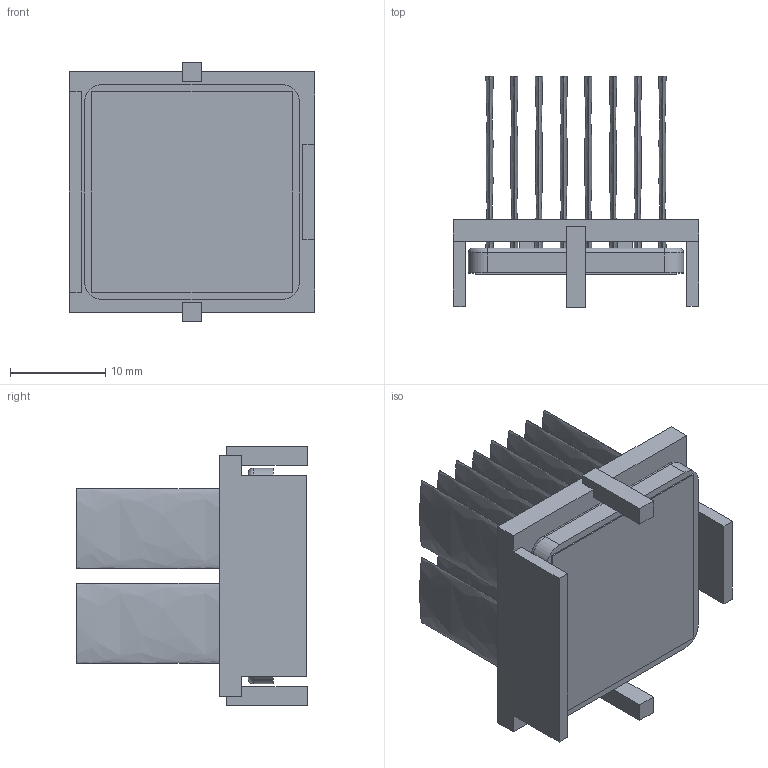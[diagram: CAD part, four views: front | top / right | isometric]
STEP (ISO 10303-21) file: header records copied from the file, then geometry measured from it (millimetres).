
FILE_DESCRIPTION (( 'STEP AP214' ), '1' );
FILE_NAME ('INM23001-21W_2.6+Y.STEP', '2023-02-15T19:18:29', ( '' ), ( '' ), 'SwSTEP 2.0', 'SolidWorks 2020', '' );
FILE_SCHEMA (( 'AUTOMOTIVE_DESIGN' ));
Length unit declared in the file: inch
Products named in the file (1): INM23001-21W_2.6+Y
Bounding box: 25.7 x 24.2 x 27.2 mm (x, y, z)
Volume: 3857.6 mm3; surface area: 8727.2 mm2
Topology: 3 solids, 3 shells, 126 faces, 304 edges, 200 vertices
Faces by surface type: plane 82, bspline 32, cylinder 8, torus 4
Entity records: 5404 total; most frequent: CARTESIAN_POINT 1047, ORIENTED_EDGE 608, DIRECTION 450, EDGE_CURVE 304, VECTOR 220, LINE 220, VERTEX_POINT 200, EDGE_LOOP 144
